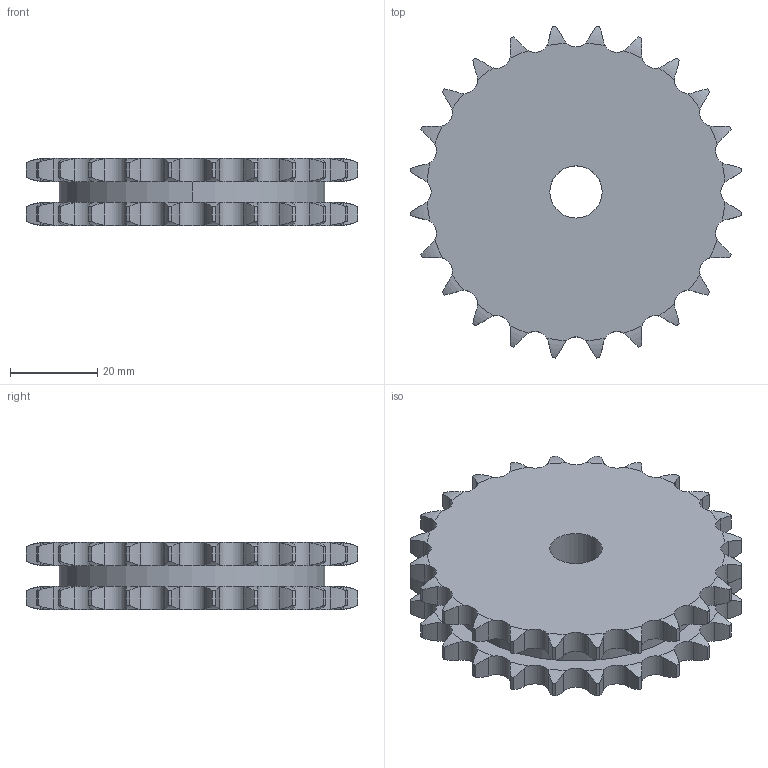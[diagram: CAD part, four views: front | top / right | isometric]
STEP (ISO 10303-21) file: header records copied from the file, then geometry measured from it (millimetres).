
FILE_DESCRIPTION((''),'2;1');
FILE_NAME('500-102-0024_PRT','2021-02-12T',('Brieden'),('Brieden'),'PRO/ENGINEER BY PARAMETRIC TECHNOLOGY CORPORATION, 2010160','PRO/ENGINEER BY PARAMETRIC TECHNOLOGY CORPORATION, 2010160','');
FILE_SCHEMA(('AUTOMOTIVE_DESIGN { 1 0 10303 214 1 1 1 1 }'));
Length unit declared in the file: millimetre
Products named in the file (1): 500-102-0024_PRT
Bounding box: 76.22 x 76.22 x 15.4 mm (x, y, z)
Volume: 53113.5 mm3; surface area: 14405.6 mm2
Topology: 1 solids, 1 shells, 296 faces, 876 edges, 584 vertices
Faces by surface type: cylinder 196, torus 96, plane 4
Entity records: 14218 total; most frequent: CARTESIAN_POINT 4067, ORIENTED_EDGE 1752, DIRECTION 1380, PRESENTATION_STYLE_ASSIGNMENT 877, STYLED_ITEM 877, CURVE_STYLE 876, EDGE_CURVE 876, AXIS2_PLACEMENT_3D 592
